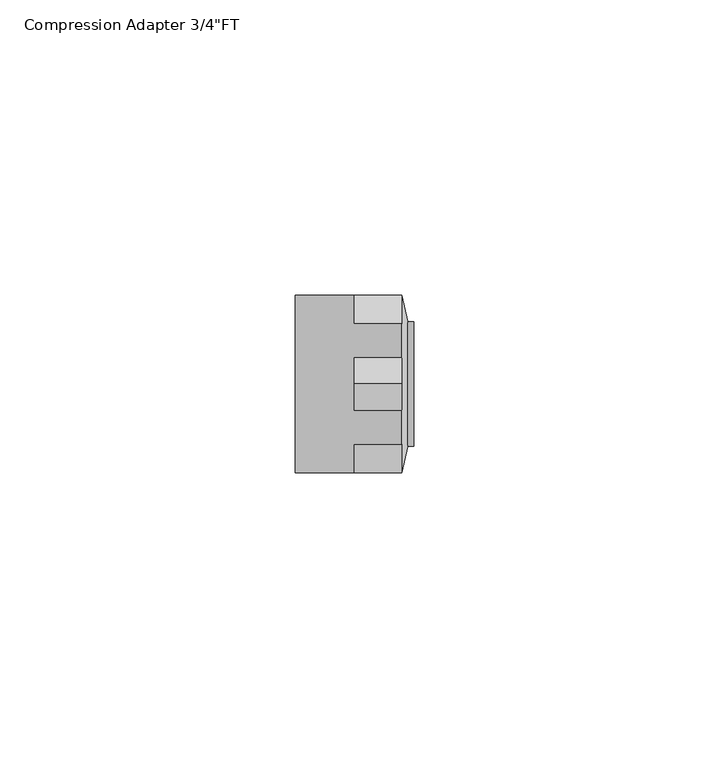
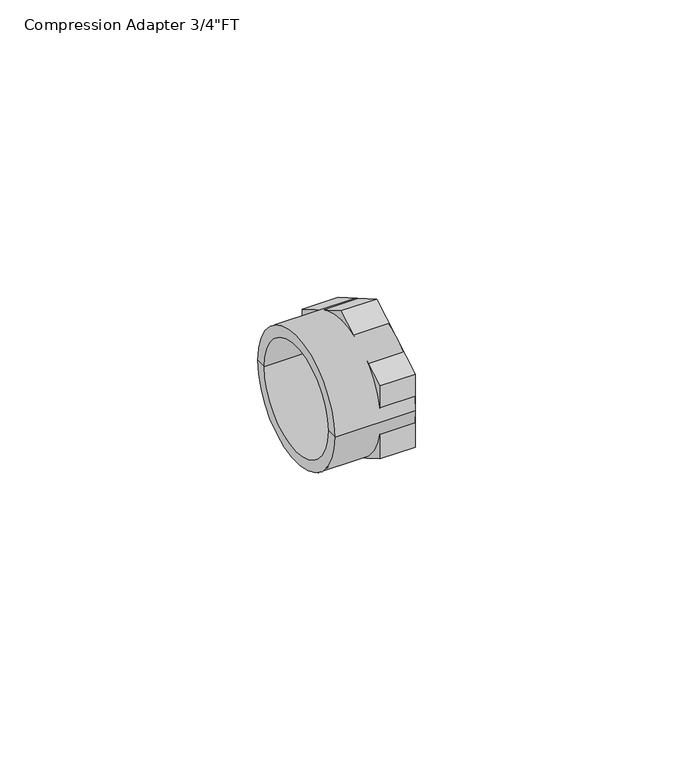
"""IFC4 building model written with IfcOpenShell, lengths in millimetres: pipe fitting geometry."""

from ifc_helpers import new_model, si_unit, point, frame, origin, origin_2d, place, context, project, spatial, polyline, circle_curve, trimmed, segment, composite_curve, outline, extrude, source, transform, mapped, element, save
from ifc_brep_helpers import plane_surface, cylinder_surface, revolved_surface, advanced_brep


def pipe_fitting_2b53eb9e(model_context):
    return source(origin(), model_context, "Body", "SolidModel", [
        advanced_brep(
        [(16.5, 12.5, 0.0), (0.0, 12.5, 0.0), (0.0, -12.5, 0.0), (16.5, -12.5, 0.0), (19.0, 8.0, 0.0), (19.0, -8.0, 0.0), (20.0, 8.0, 0.0), (20.0, -8.0, 0.0), (20.0, 10.5, 0.0), (20.0, -10.5, 0.0), (19.0, 10.5, 0.0), (19.0, -10.5, 0.0), (18.0, 15.0, 0.0), (18.0, -15.0, 0.0), (0.0, 15.0, 0.0), (0.0, -15.0, 0.0)],
        [
            (0, 1),
            (1, 2, circle_curve(frame((0.0, 0.0, 0.0), z_axis=(-1.0, 0.0, 0.0), x_axis=(0.0, -1.0, 0.0)), 12.5)),
            (2, 3),
            (3, 0, circle_curve(frame((16.5, 0.0, 0.0), z_axis=(1.0, 0.0, 0.0), x_axis=(0.0, -1.0, 0.0)), 12.5)),
            (2, 1, circle_curve(frame((0.0, 0.0, 0.0), z_axis=(-1.0, 0.0, 0.0), x_axis=(0.0, -1.0, 0.0)), 12.5)),
            (0, 3, circle_curve(frame((16.5, 0.0, 0.0), z_axis=(1.0, 0.0, 0.0), x_axis=(0.0, -1.0, 0.0)), 12.5)),
            (4, 0),
            (3, 5),
            (5, 4, circle_curve(frame((19.0, 0.0, 0.0), z_axis=(1.0, 0.0, 0.0), x_axis=(0.0, -1.0, 0.0)), 8.0)),
            (4, 5, circle_curve(frame((19.0, 0.0, 0.0), z_axis=(1.0, 0.0, 0.0), x_axis=(0.0, -1.0, 0.0)), 8.0)),
            (6, 4),
            (5, 7),
            (7, 6, circle_curve(frame((20.0, 0.0, 0.0), z_axis=(1.0, 0.0, 0.0), x_axis=(0.0, -1.0, 0.0)), 8.0)),
            (6, 7, circle_curve(frame((20.0, 0.0, 0.0), z_axis=(1.0, 0.0, 0.0), x_axis=(0.0, -1.0, 0.0)), 8.0)),
            (8, 6),
            (7, 9),
            (9, 8, circle_curve(frame((20.0, 0.0, 0.0), z_axis=(1.0, 0.0, 0.0), x_axis=(0.0, -1.0, 0.0)), 10.5)),
            (8, 9, circle_curve(frame((20.0, 0.0, 0.0), z_axis=(1.0, 0.0, 0.0), x_axis=(0.0, -1.0, 0.0)), 10.5)),
            (10, 8),
            (9, 11),
            (11, 10, circle_curve(frame((19.0, 0.0, 0.0), z_axis=(1.0, 0.0, 0.0), x_axis=(0.0, -1.0, 0.0)), 10.5)),
            (10, 11, circle_curve(frame((19.0, 0.0, 0.0), z_axis=(1.0, 0.0, 0.0), x_axis=(0.0, -1.0, 0.0)), 10.5)),
            (12, 10),
            (11, 13),
            (13, 12, circle_curve(frame((18.0, 0.0, 0.0), z_axis=(1.0, 0.0, 0.0), x_axis=(0.0, -1.0, 0.0)), 15.0)),
            (12, 13, circle_curve(frame((18.0, 0.0, 0.0), z_axis=(1.0, 0.0, 0.0), x_axis=(0.0, -1.0, 0.0)), 15.0)),
            (14, 12),
            (13, 15),
            (15, 14, circle_curve(frame((0.0, 0.0, 0.0), z_axis=(1.0, 0.0, 0.0), x_axis=(0.0, -1.0, 0.0)), 15.0)),
            (14, 15, circle_curve(frame((0.0, 0.0, 0.0), z_axis=(1.0, 0.0, 0.0), x_axis=(0.0, -1.0, 0.0)), 15.0)),
            (1, 14),
            (15, 2),
        ],
        [
            revolved_surface(polyline([(0.0, -12.5, 0.0), (16.5, -12.5, 0.0)]), (1998.0, 0.0, 0.0), (-1.0, 0.0, 0.0)),
            revolved_surface(polyline([(16.5, -12.5, 0.0), (19.0, -8.0, 0.0)]), (1998.0, 0.0, 0.0), (-1.0, 0.0, 0.0)),
            revolved_surface(polyline([(19.0, -8.0, 0.0), (20.0, -8.0, 0.0)]), (1998.0, 0.0, 0.0), (-1.0, 0.0, 0.0)),
            plane_surface(frame((20.0, 0.0, 0.0), z_axis=(1.0, 0.0, 0.0), x_axis=(0.0, -1.0, 0.0))),
            cylinder_surface(frame((1998.0, 0.0, 0.0), z_axis=(-1.0, 0.0, 0.0), x_axis=(0.0, -1.0, 0.0)), 10.5),
            revolved_surface(polyline([(19.0, -10.5, 0.0), (18.0, -15.0, 0.0)]), (1998.0, 0.0, 0.0), (-1.0, 0.0, 0.0)),
            cylinder_surface(frame((1998.0, 0.0, 0.0), z_axis=(-1.0, 0.0, 0.0), x_axis=(0.0, -1.0, 0.0)), 15.0),
            plane_surface(frame((0.0, 0.0, 0.0), z_axis=(-1.0, 0.0, 0.0), x_axis=(0.0, -1.0, 0.0))),
        ],
        [
            (0, [[1, 2, 3, 4]]),
            (0, [[-3, 5, -1, 6]]),
            (1, [[7, -4, 8, 9]]),
            (1, [[-8, -6, -7, 10]]),
            (2, [[11, -9, 12, 13]]),
            (2, [[-12, -10, -11, 14]]),
            (3, [[15, -13, 16, 17]]),
            (3, [[-16, -14, -15, 18]]),
            (4, [[19, -17, 20, 21]]),
            (4, [[-20, -18, -19, 22]]),
            (5, [[23, -21, 24, 25]]),
            (5, [[-24, -22, -23, 26]]),
            (6, [[27, -25, 28, 29]]),
            (6, [[-28, -26, -27, 30]]),
            (7, [[31, -29, 32, -2]]),
            (7, [[-32, -30, -31, -5]]),
        ],
    ),
        extrude(outline(polyline([(0.0, 17.3205081), (15.0, 8.660254), (15.0, -8.660254), (0.0, -17.3205081), (-15.0, -8.660254), (-15.0, 8.660254), (0.0, 17.3205081)]), holes=[composite_curve([segment(trimmed(circle_curve(origin_2d(), 12.5), [point((12.5, 0.0))], [point((-12.5, 0.0))], True, "CARTESIAN"), True, "CONTINUOUS"), segment(trimmed(circle_curve(origin_2d(), 12.5), [point((-12.5, 0.0))], [point((12.5, 0.0))], True, "CARTESIAN"), True, "CONTINUOUS")], self_intersect=False)]), frame((10.0, 0.0, 0.0), z_axis=(1.0, 0.0, 0.0), x_axis=(0.0, 1.0, 0.0)), (0.0, 0.0, 1.0), 8.0),
    ])


if __name__ == "__main__":
    model = new_model("IFC4")
    model_context = context("Model", 3, world=origin())
    ifc_project = project(units=[si_unit("LENGTHUNIT", "METRE", prefix="MILLI")], contexts=[model_context])
    site = spatial("IfcSite", under=ifc_project)
    building = spatial("IfcBuilding", under=site)
    placement = place(None, origin())
    pipe_fitting_shape = pipe_fitting_2b53eb9e(model_context)
    element("IfcPipeFitting", 1, ObjectType="Compression Adapter 3/4\"FT : Superpipe Compression Adapter", at=placement, inside=building, context=model_context, shape_type="MappedRepresentation", body=[
        mapped(pipe_fitting_shape, transform((0.0, 0.0, 0.0), x_axis=(1.0, 0.0, 0.0), y_axis=(0.0, 1.0, 0.0), z_axis=(0.0, 0.0, 1.0))),
    ])
    save(model, "model.ifc")
